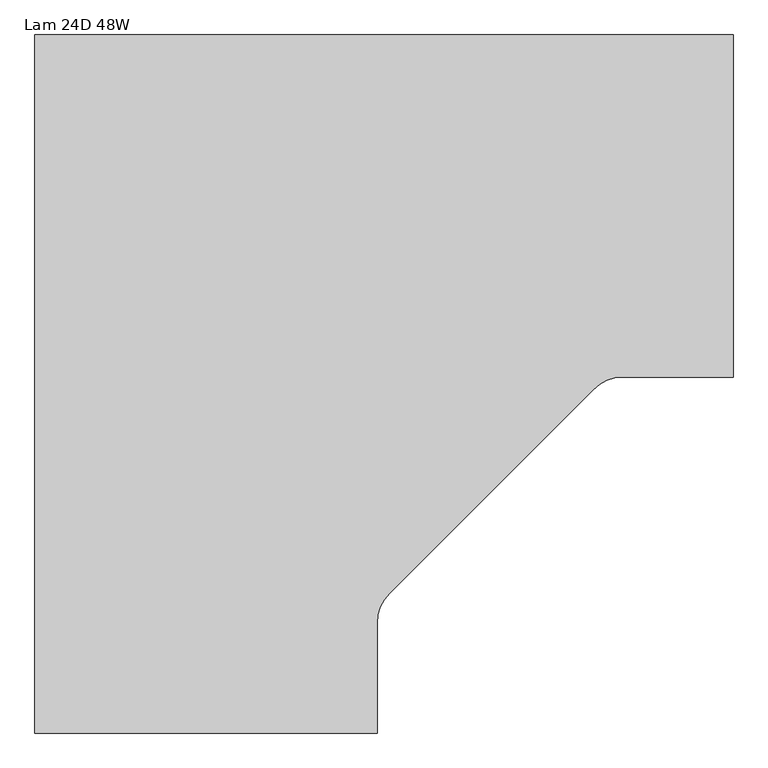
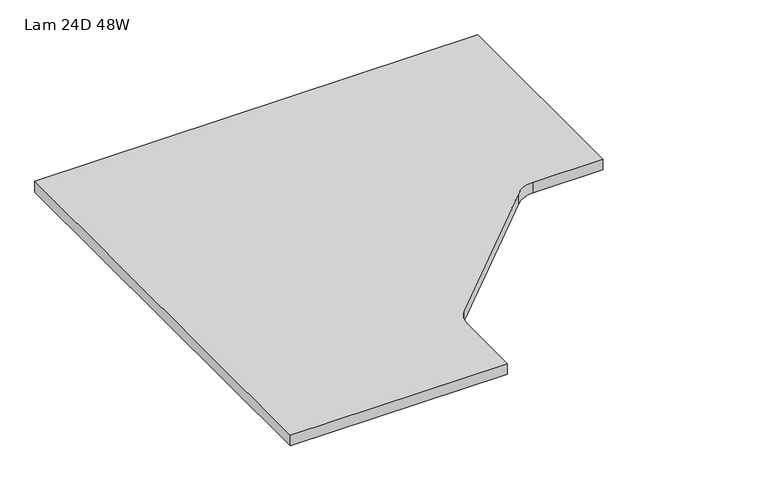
"""IFC4 building model written with IfcOpenShell, lengths in millimetres: furniture geometry, HermanMiller_Ethospace_EWS20_F_Sq-EdgeCornerSurface_FrameAttached : Lam 24D 48W."""

from ifc_helpers import new_model, si_unit, point, frame, frame_2d, origin, place, context, project, spatial, polyline, circle_curve, trimmed, segment, composite_curve, outline, extrude, source, transform, mapped, element, save


def lam_24d_48w_661e9c04(model_context):
    return source(origin(), model_context, "Body", "SweptSolid", [
        extrude(outline(composite_curve([segment(polyline([(-762.0, -408.051), (-762.0, 784.225), (430.276, 784.225), (430.276, 200.025), (242.8517813, 200.025)]), True, "CONTINUOUS"), segment(trimmed(circle_curve(frame_2d((242.8517813, 126.9666974)), 73.0583026), [point((242.8517813, 200.025))], [point((191.1588125, 178.59375))], True, "CARTESIAN"), True, "CONTINUOUS"), segment(polyline([(191.1588125, 178.59375), (-156.4017186, -168.9667811)]), True, "CONTINUOUS"), segment(trimmed(circle_curve(frame_2d((-104.7416974, -220.6268023)), 73.0583026), [point((-156.4017186, -168.9667811))], [point((-177.8, -220.6268023))], True, "CARTESIAN"), True, "CONTINUOUS"), segment(polyline([(-177.8, -220.6268023), (-177.8, -408.051), (-762.0, -408.051)]), True, "CONTINUOUS")], self_intersect=False)), frame((0.0, 0.0, 706.628), z_axis=(0.0, 0.0, 1.0), x_axis=(1.0, 0.0, 0.0)), (0.0, 0.0, 1.0), 29.972),
    ])


if __name__ == "__main__":
    model = new_model("IFC4")
    model_context = context("Model", 3, world=origin())
    ifc_project = project(units=[si_unit("LENGTHUNIT", "METRE", prefix="MILLI")], contexts=[model_context])
    site = spatial("IfcSite", under=ifc_project)
    building = spatial("IfcBuilding", under=site)
    placement = place(None, origin())
    lam_24d_48w_shape = lam_24d_48w_661e9c04(model_context)
    element("IfcFurniture", 1, ObjectType="HermanMiller_Ethospace_EWS20_F_Sq-EdgeCornerSurface_FrameAttached : Lam 24D 48W", at=placement, inside=building, context=model_context, shape_type="MappedRepresentation", body=[
        mapped(lam_24d_48w_shape, transform((0.0, 0.0, 0.0), x_axis=(1.0, 0.0, 0.0), y_axis=(0.0, 1.0, 0.0), z_axis=(0.0, 0.0, 1.0))),
    ])
    save(model, "model.ifc")
